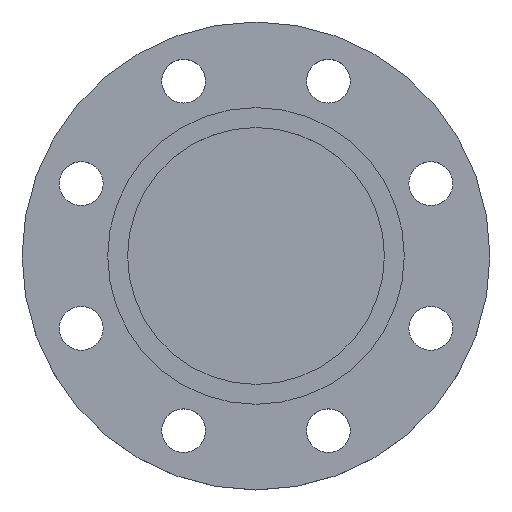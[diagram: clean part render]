
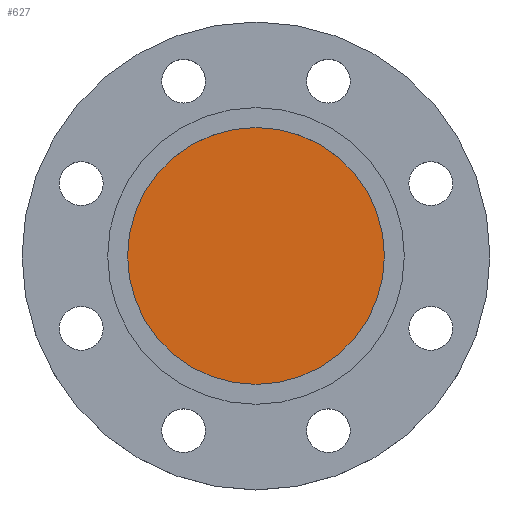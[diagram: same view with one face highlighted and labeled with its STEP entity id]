
A CAD part, top view. The second image highlights one B-rep face of the part: STEP entity #627.
In plain terms, the highlighted planar face has unit normal (0, 0, 1).
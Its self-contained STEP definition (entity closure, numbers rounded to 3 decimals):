
#43 = ORIENTED_EDGE ( 'NONE', *, *, #448, .F. ) ;
#55 = FACE_OUTER_BOUND ( 'NONE', #265, .T. ) ;
#80 = AXIS2_PLACEMENT_3D ( 'NONE', #777, #1089, #342 ) ;
#107 = CARTESIAN_POINT ( 'NONE',  ( 0., 0., -5. ) ) ;
#133 = VERTEX_POINT ( 'NONE', #778 ) ;
#207 = DIRECTION ( 'NONE',  ( -1., 0., 0. ) ) ;
#214 = AXIS2_PLACEMENT_3D ( 'NONE', #669, #977, #207 ) ;
#219 = CIRCLE ( 'NONE', #214, 64.5 ) ;
#265 = EDGE_LOOP ( 'NONE', ( #842, #43 ) ) ;
#308 = AXIS2_PLACEMENT_3D ( 'NONE', #107, #482, #816 ) ;
#342 = DIRECTION ( 'NONE',  ( 1., 0., 0. ) ) ;
#430 = PLANE ( 'NONE',  #80 ) ;
#448 = EDGE_CURVE ( 'NONE', #133, #689, #1024, .T. ) ;
#482 = DIRECTION ( 'NONE',  ( 0., 0., -1. ) ) ;
#627 = ADVANCED_FACE ( 'NONE', ( #55 ), #430, .T. ) ;
#669 = CARTESIAN_POINT ( 'NONE',  ( 0., 0., -5. ) ) ;
#689 = VERTEX_POINT ( 'NONE', #1098 ) ;
#777 = CARTESIAN_POINT ( 'NONE',  ( 64.5, 0., -5. ) ) ;
#778 = CARTESIAN_POINT ( 'NONE',  ( 64.5, 0., -5. ) ) ;
#816 = DIRECTION ( 'NONE',  ( -1., 0., 0. ) ) ;
#842 = ORIENTED_EDGE ( 'NONE', *, *, #877, .F. ) ;
#877 = EDGE_CURVE ( 'NONE', #689, #133, #219, .T. ) ;
#977 = DIRECTION ( 'NONE',  ( 0., 0., -1. ) ) ;
#1024 = CIRCLE ( 'NONE', #308, 64.5 ) ;
#1089 = DIRECTION ( 'NONE',  ( 0., 0., 1. ) ) ;
#1098 = CARTESIAN_POINT ( 'NONE',  ( -64.5, 0., -5. ) ) ;
